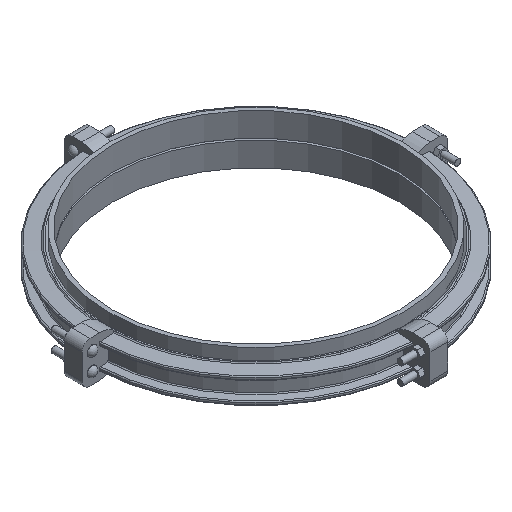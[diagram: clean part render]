
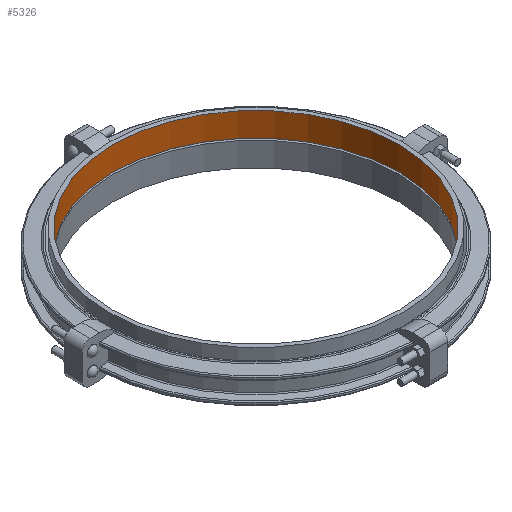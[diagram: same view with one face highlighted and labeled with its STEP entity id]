
A CAD part, isometric view. The second image highlights one B-rep face of the part: STEP entity #5326.
In plain terms, the highlighted cylindrical face has radius 914.4 mm (diameter 1828.8 mm), a full revolution.
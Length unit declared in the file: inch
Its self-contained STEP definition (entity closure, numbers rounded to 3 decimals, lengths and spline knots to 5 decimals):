
#270=CYLINDRICAL_SURFACE('',#5937,36.);
#588=FACE_OUTER_BOUND('',#906,.T.);
#906=EDGE_LOOP('',(#4630,#4631,#4632,#4633,#4634,#4635));
#1291=LINE('',#10065,#1674);
#1674=VECTOR('',#7388,36.);
#1927=CIRCLE('',#5935,36.);
#1928=CIRCLE('',#5936,36.);
#1929=CIRCLE('',#5938,36.);
#1930=CIRCLE('',#5939,36.);
#2431=VERTEX_POINT('',#10059);
#2432=VERTEX_POINT('',#10060);
#2433=VERTEX_POINT('',#10064);
#2434=VERTEX_POINT('',#10066);
#3165=EDGE_CURVE('',#2431,#2432,#1927,.T.);
#3166=EDGE_CURVE('',#2432,#2431,#1928,.T.);
#3167=EDGE_CURVE('',#2432,#2433,#1291,.T.);
#3168=EDGE_CURVE('',#2434,#2433,#1929,.T.);
#3169=EDGE_CURVE('',#2433,#2434,#1930,.T.);
#4630=ORIENTED_EDGE('',*,*,#3165,.T.);
#4631=ORIENTED_EDGE('',*,*,#3167,.T.);
#4632=ORIENTED_EDGE('',*,*,#3168,.F.);
#4633=ORIENTED_EDGE('',*,*,#3169,.F.);
#4634=ORIENTED_EDGE('',*,*,#3167,.F.);
#4635=ORIENTED_EDGE('',*,*,#3166,.T.);
#5326=ADVANCED_FACE('',(#588),#270,.F.);
#5935=AXIS2_PLACEMENT_3D('',#10061,#7382,#7383);
#5936=AXIS2_PLACEMENT_3D('',#10062,#7384,#7385);
#5937=AXIS2_PLACEMENT_3D('',#10063,#7386,#7387);
#5938=AXIS2_PLACEMENT_3D('',#10067,#7389,#7390);
#5939=AXIS2_PLACEMENT_3D('',#10068,#7391,#7392);
#7382=DIRECTION('center_axis',(0.,0.,-1.));
#7383=DIRECTION('ref_axis',(1.,0.,0.));
#7384=DIRECTION('center_axis',(0.,0.,-1.));
#7385=DIRECTION('ref_axis',(1.,0.,0.));
#7386=DIRECTION('center_axis',(0.,0.,-1.));
#7387=DIRECTION('ref_axis',(0.,1.,0.));
#7388=DIRECTION('',(0.,0.,1.));
#7389=DIRECTION('center_axis',(0.,0.,-1.));
#7390=DIRECTION('ref_axis',(1.,0.,0.));
#7391=DIRECTION('center_axis',(0.,0.,-1.));
#7392=DIRECTION('ref_axis',(1.,0.,0.));
#10059=CARTESIAN_POINT('',(0.,36.,0.));
#10060=CARTESIAN_POINT('',(0.,-36.,0.));
#10061=CARTESIAN_POINT('Origin',(0.,0.,0.));
#10062=CARTESIAN_POINT('Origin',(0.,0.,0.));
#10063=CARTESIAN_POINT('Origin',(0.,0.,3.));
#10064=CARTESIAN_POINT('',(0.,-36.,6.));
#10065=CARTESIAN_POINT('',(0.,-36.,3.));
#10066=CARTESIAN_POINT('',(0.,36.,6.));
#10067=CARTESIAN_POINT('Origin',(0.,0.,6.));
#10068=CARTESIAN_POINT('Origin',(0.,0.,6.));
